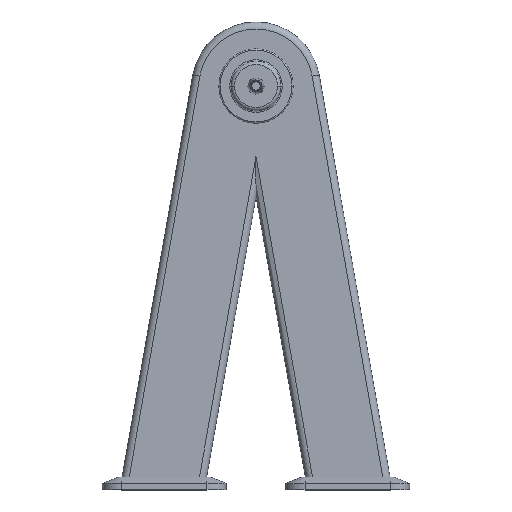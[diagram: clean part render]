
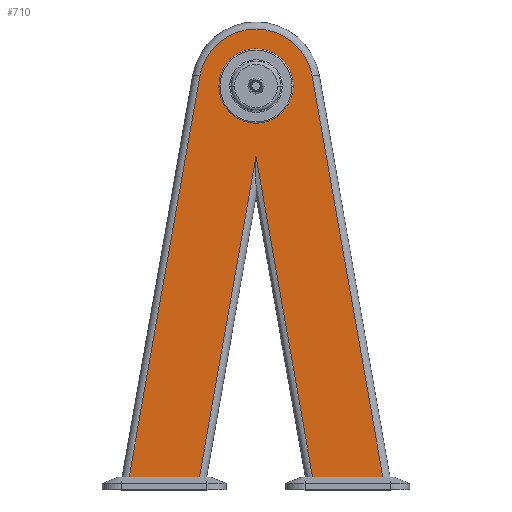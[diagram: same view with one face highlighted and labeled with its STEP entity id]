
A CAD part, top view. The second image highlights one B-rep face of the part: STEP entity #710.
In plain terms, the highlighted planar face has unit normal (0, 0, 1).
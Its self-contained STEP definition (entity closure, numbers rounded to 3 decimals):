
#74 = ORIENTED_EDGE ( 'NONE', *, *, #2599, .F. ) ;
#147 = VERTEX_POINT ( 'NONE', #2153 ) ;
#173 = EDGE_LOOP ( 'NONE', ( #770, #303 ) ) ;
#198 = CIRCLE ( 'NONE', #326, 58. ) ;
#206 = LINE ( 'NONE', #1689, #2015 ) ;
#228 = PLANE ( 'NONE',  #705 ) ;
#236 = VERTEX_POINT ( 'NONE', #1210 ) ;
#259 = VERTEX_POINT ( 'NONE', #2101 ) ;
#303 = ORIENTED_EDGE ( 'NONE', *, *, #2150, .F. ) ;
#326 = AXIS2_PLACEMENT_3D ( 'NONE', #1355, #2755, #1589 ) ;
#368 = CARTESIAN_POINT ( 'NONE',  ( 0., 20., 63. ) ) ;
#389 = LINE ( 'NONE', #938, #1640 ) ;
#392 = VECTOR ( 'NONE', #1513, 1000. ) ;
#412 = ORIENTED_EDGE ( 'NONE', *, *, #1349, .T. ) ;
#470 = LINE ( 'NONE', #2618, #864 ) ;
#480 = CARTESIAN_POINT ( 'NONE',  ( 0., 630., 63. ) ) ;
#532 = CARTESIAN_POINT ( 'NONE',  ( 0., 520.583, 63. ) ) ;
#560 = EDGE_CURVE ( 'NONE', #2464, #1503, #2558, .T. ) ;
#669 = ORIENTED_EDGE ( 'NONE', *, *, #2269, .F. ) ;
#705 = AXIS2_PLACEMENT_3D ( 'NONE', #480, #2042, #717 ) ;
#710 = ADVANCED_FACE ( 'NONE', ( #1138, #1229 ), #228, .T. ) ;
#717 = DIRECTION ( 'NONE',  ( 1., 0., 0. ) ) ;
#761 = VECTOR ( 'NONE', #1767, 1000. ) ;
#770 = ORIENTED_EDGE ( 'NONE', *, *, #560, .F. ) ;
#788 = CARTESIAN_POINT ( 'NONE',  ( -58., 630., 63. ) ) ;
#812 = EDGE_CURVE ( 'NONE', #236, #259, #206, .T. ) ;
#842 = VERTEX_POINT ( 'NONE', #532 ) ;
#864 = VECTOR ( 'NONE', #1411, 1000. ) ;
#938 = CARTESIAN_POINT ( 'NONE',  ( 0., 20., 63. ) ) ;
#956 = ORIENTED_EDGE ( 'NONE', *, *, #1548, .T. ) ;
#962 = CARTESIAN_POINT ( 'NONE',  ( 0., 630., 63. ) ) ;
#993 = CIRCLE ( 'NONE', #2324, 89. ) ;
#997 = DIRECTION ( 'NONE',  ( 0., 0., 1. ) ) ;
#1048 = ORIENTED_EDGE ( 'NONE', *, *, #812, .T. ) ;
#1138 = FACE_BOUND ( 'NONE', #173, .T. ) ;
#1208 = DIRECTION ( 'NONE',  ( 1., 0., 0. ) ) ;
#1210 = CARTESIAN_POINT ( 'NONE',  ( -87.648, 645.455, 63. ) ) ;
#1229 = FACE_OUTER_BOUND ( 'NONE', #1298, .T. ) ;
#1237 = DIRECTION ( 'NONE',  ( -0.174, -0.985, 0. ) ) ;
#1298 = EDGE_LOOP ( 'NONE', ( #74, #956, #1603, #669, #2271, #412, #1048 ) ) ;
#1320 = LINE ( 'NONE', #368, #761 ) ;
#1324 = LINE ( 'NONE', #1484, #2797 ) ;
#1349 = EDGE_CURVE ( 'NONE', #2739, #236, #993, .T. ) ;
#1355 = CARTESIAN_POINT ( 'NONE',  ( 0., 630., 63. ) ) ;
#1411 = DIRECTION ( 'NONE',  ( 0.174, -0.985, 0. ) ) ;
#1455 = EDGE_CURVE ( 'NONE', #147, #2739, #1324, .T. ) ;
#1484 = CARTESIAN_POINT ( 'NONE',  ( 87.648, 645.455, 63. ) ) ;
#1501 = CARTESIAN_POINT ( 'NONE',  ( 58., 630., 63. ) ) ;
#1503 = VERTEX_POINT ( 'NONE', #1501 ) ;
#1513 = DIRECTION ( 'NONE',  ( 0.174, 0.985, 0. ) ) ;
#1547 = CARTESIAN_POINT ( 'NONE',  ( -88.266, 20., 63. ) ) ;
#1548 = EDGE_CURVE ( 'NONE', #1642, #842, #2675, .T. ) ;
#1589 = DIRECTION ( 'NONE',  ( 1., 0., 0. ) ) ;
#1603 = ORIENTED_EDGE ( 'NONE', *, *, #1881, .T. ) ;
#1640 = VECTOR ( 'NONE', #2416, 1000. ) ;
#1642 = VERTEX_POINT ( 'NONE', #1547 ) ;
#1689 = CARTESIAN_POINT ( 'NONE',  ( -202.854, -7.91, 63. ) ) ;
#1734 = CARTESIAN_POINT ( 'NONE',  ( -10.833, 459.147, 63. ) ) ;
#1767 = DIRECTION ( 'NONE',  ( -1., 0., 0. ) ) ;
#1820 = CARTESIAN_POINT ( 'NONE',  ( 87.648, 645.455, 63. ) ) ;
#1881 = EDGE_CURVE ( 'NONE', #842, #2200, #470, .T. ) ;
#2015 = VECTOR ( 'NONE', #1237, 1000. ) ;
#2042 = DIRECTION ( 'NONE',  ( 0., 0., 1. ) ) ;
#2076 = DIRECTION ( 'NONE',  ( -0.174, 0.985, 0. ) ) ;
#2101 = CARTESIAN_POINT ( 'NONE',  ( -197.932, 20., 63. ) ) ;
#2150 = EDGE_CURVE ( 'NONE', #1503, #2464, #198, .T. ) ;
#2153 = CARTESIAN_POINT ( 'NONE',  ( 197.932, 20., 63. ) ) ;
#2200 = VERTEX_POINT ( 'NONE', #2575 ) ;
#2269 = EDGE_CURVE ( 'NONE', #147, #2200, #389, .T. ) ;
#2271 = ORIENTED_EDGE ( 'NONE', *, *, #1455, .T. ) ;
#2324 = AXIS2_PLACEMENT_3D ( 'NONE', #962, #2426, #1208 ) ;
#2335 = AXIS2_PLACEMENT_3D ( 'NONE', #2442, #997, #2447 ) ;
#2416 = DIRECTION ( 'NONE',  ( -1., 0., 0. ) ) ;
#2426 = DIRECTION ( 'NONE',  ( 0., 0., 1. ) ) ;
#2442 = CARTESIAN_POINT ( 'NONE',  ( 0., 630., 63. ) ) ;
#2447 = DIRECTION ( 'NONE',  ( 1., 0., 0. ) ) ;
#2464 = VERTEX_POINT ( 'NONE', #788 ) ;
#2558 = CIRCLE ( 'NONE', #2335, 58. ) ;
#2575 = CARTESIAN_POINT ( 'NONE',  ( 88.266, 20., 63. ) ) ;
#2599 = EDGE_CURVE ( 'NONE', #1642, #259, #1320, .T. ) ;
#2618 = CARTESIAN_POINT ( 'NONE',  ( 94.379, -14.664, 63. ) ) ;
#2675 = LINE ( 'NONE', #1734, #392 ) ;
#2739 = VERTEX_POINT ( 'NONE', #1820 ) ;
#2755 = DIRECTION ( 'NONE',  ( 0., 0., 1. ) ) ;
#2797 = VECTOR ( 'NONE', #2076, 1000. ) ;
